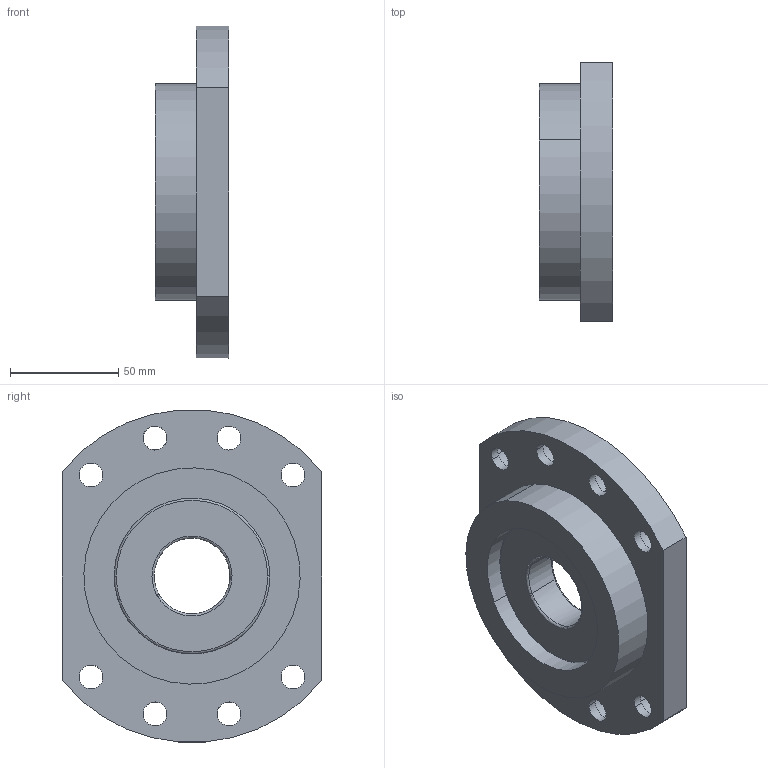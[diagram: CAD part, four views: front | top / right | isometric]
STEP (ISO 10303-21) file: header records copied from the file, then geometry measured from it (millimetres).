
FILE_DESCRIPTION(('CATIA V5 STEP Exchange'),'2;1');
FILE_NAME('C:\Users\aa\Documents\이댈\서포트\FF35.stp','2020-05-18T01:13:35+00:00',('none'),('none'),'CATIA Version 5 Release 20 SP 7 (IN-10)','CATIA V5 STEP AP203','none');
FILE_SCHEMA(('CONFIG_CONTROL_DESIGN'));
Length unit declared in the file: millimetre
Products named in the file (1): FF35
Assembly tree (2 placements, depth 2):
  FF35
    #58
    #1722
Bounding box: 34 x 120 x 153.49 mm (x, y, z)
Volume: 285082.8 mm3; surface area: 61378.7 mm2
Topology: 2 solids, 2 shells, 69 faces, 160 edges, 104 vertices
Faces by surface type: cylinder 42, plane 15, torus 12
Entity records: 2321 total; most frequent: CARTESIAN_POINT 697, ORIENTED_EDGE 320, DIRECTION 269, EDGE_CURVE 160, AXIS2_PLACEMENT_3D 155, VERTEX_POINT 104, EDGE_LOOP 98, CIRCLE 89
